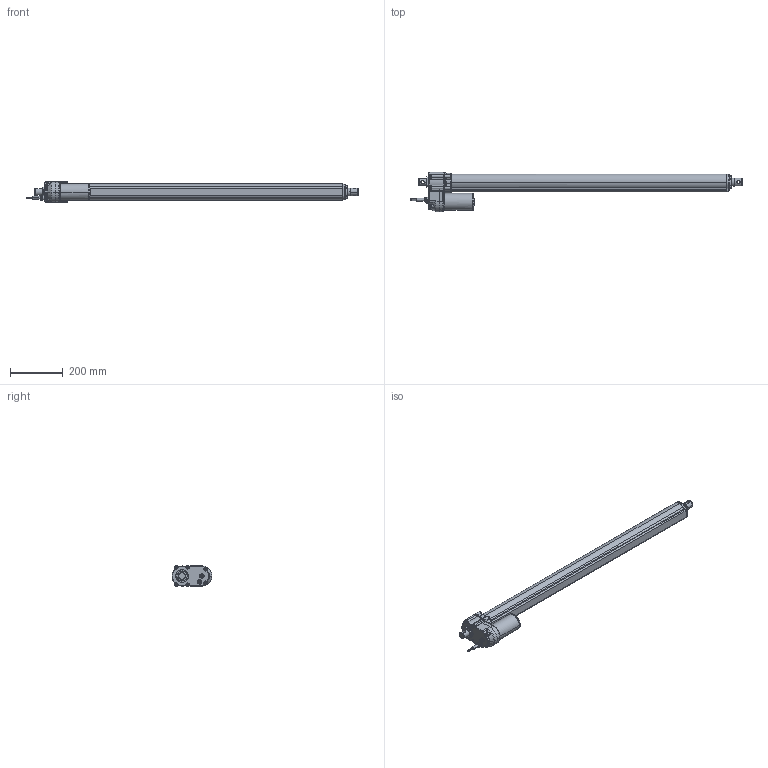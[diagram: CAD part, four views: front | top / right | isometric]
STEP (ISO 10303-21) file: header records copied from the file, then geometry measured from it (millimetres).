
FILE_DESCRIPTION(('STEP AP203'),'1');
FILE_NAME('LINACT-33P-900MM.stp','2025-11-20T12:31:31',('Linear Actuators S.A.'),('Linear Actuators South Africa (Pty) Ltd'),'Spatial InterOp 3D',' ',' ');
FILE_SCHEMA(('CONFIG_CONTROL_DESIGN'));
Length unit declared in the file: millimetre
Products named in the file (1): 1
Bounding box: 1261.27 x 151.4 x 79 mm (x, y, z)
Volume: 4607578.5 mm3; surface area: 311329.8 mm2
Topology: 1 solids, 1 shells, 940 faces, 2391 edges, 1467 vertices
Faces by surface type: torus 294, plane 239, cylinder 234, bspline 105, cone 66, sphere 2
Entity records: 41074 total; most frequent: CARTESIAN_POINT 19629, ORIENTED_EDGE 4728, DIRECTION 4260, EDGE_CURVE 2364, AXIS2_PLACEMENT_3D 1786, VERTEX_POINT 1467, EDGE_LOOP 985, CIRCLE 942
